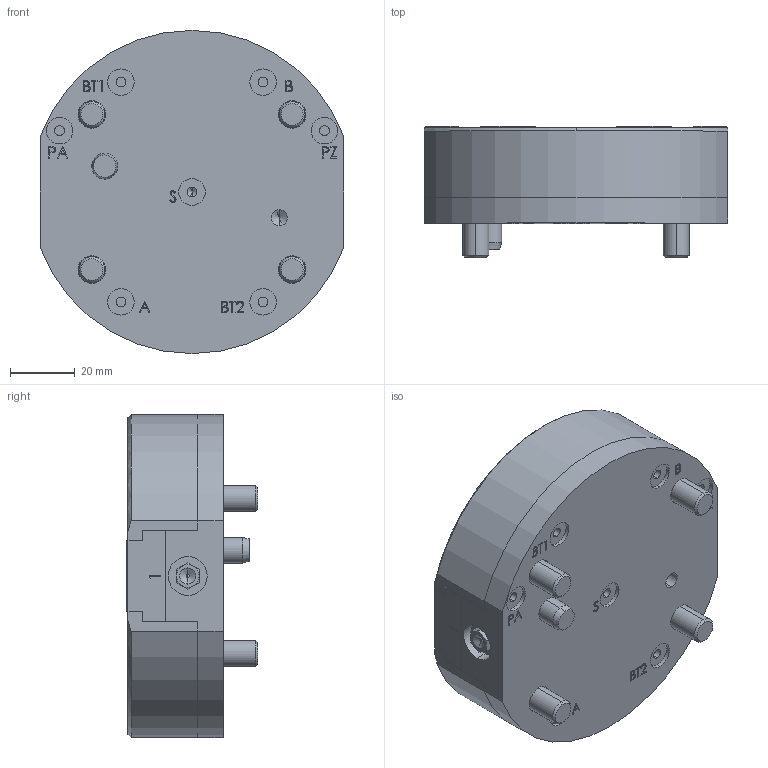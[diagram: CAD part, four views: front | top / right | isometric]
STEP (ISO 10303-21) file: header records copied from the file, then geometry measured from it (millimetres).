
FILE_DESCRIPTION (( 'STEP AP214' ), '1' );
FILE_NAME ('IFCC30-003.STEP', '2020-05-11T08:04:12', ( '' ), ( '' ), 'SwSTEP 2.0', 'SolidWorks 2014', '' );
FILE_SCHEMA (( 'AUTOMOTIVE_DESIGN' ));
Length unit declared in the file: millimetre
Products named in the file (9): DIN 7991 - Neu_DIN 7991 - M8 x 40; Positionsstift-Rund_03120_05; 97942_1106100; 2020001-mod; 2022007-mod; 2100001-mod; 2028001-mod; 2028002-mod; IFCC30-003
Assembly tree (13 placements, depth 2):
  IFCC30-003
    2028002-mod
    2028001-mod
    2100001-mod
    2022007-mod  x2
    2020001-mod
    97942_1106100  x2
    Positionsstift-Rund_03120_05
    DIN 7991 - Neu_DIN 7991 - M8 x 40  x4
Bounding box: 94 x 40.62 x 100 mm (x, y, z)
Volume: 222292.1 mm3; surface area: 64434.3 mm2
Topology: 13 solids, 13 shells, 672 faces, 1636 edges, 1009 vertices
Faces by surface type: plane 297, cylinder 151, cone 146, bspline 70, torus 8
Entity records: 20825 total; most frequent: CARTESIAN_POINT 6829, ORIENTED_EDGE 2660, DIRECTION 2513, EDGE_CURVE 1330, VECTOR 865, LINE 865, VERTEX_POINT 856, AXIS2_PLACEMENT_3D 824
